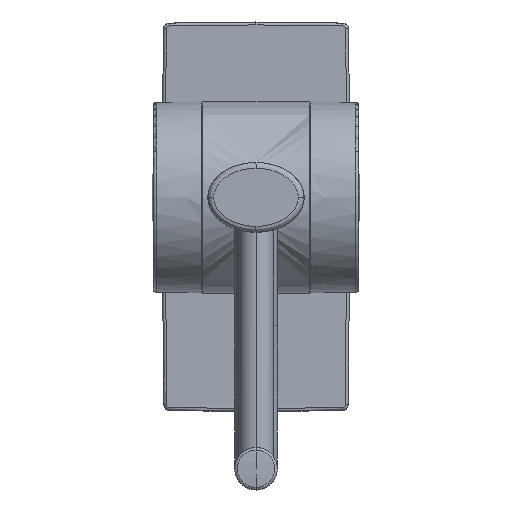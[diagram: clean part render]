
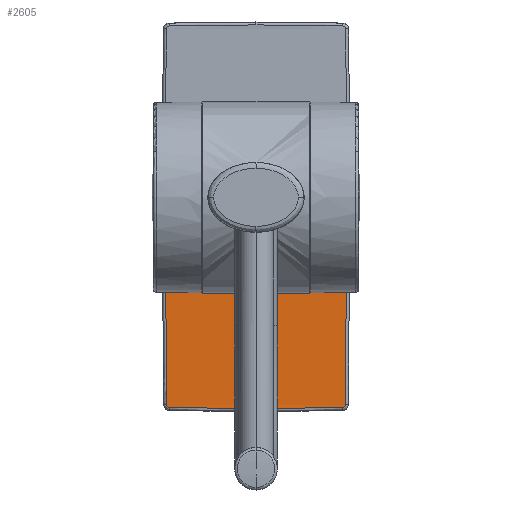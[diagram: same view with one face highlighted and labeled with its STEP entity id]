
A CAD part, front view. The second image highlights one B-rep face of the part: STEP entity #2605.
In plain terms, the highlighted cylindrical face has radius 7000 mm (diameter 14000 mm), a partial arc.
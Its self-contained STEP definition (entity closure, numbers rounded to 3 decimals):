
#37=CARTESIAN_POINT('',(0.,-14.5,
-109.));
#38=CARTESIAN_POINT('',(4.572,-14.5,-109.));
#39=CARTESIAN_POINT('',(13.965,-14.491,-108.964));
#40=CARTESIAN_POINT('',(28.289,-14.448,-108.799));
#41=CARTESIAN_POINT('',(39.012,-14.394,-108.586));
#42=CARTESIAN_POINT('',(44.582,-14.358,-108.448));
#44=CARTESIAN_POINT('',(0.,-14.5,
-109.));
#45=CARTESIAN_POINT('',(-4.572,-14.5,-109.));
#46=CARTESIAN_POINT('',(-13.965,-14.491,-108.964));
#47=CARTESIAN_POINT('',(-28.289,-14.448,-108.799));
#48=CARTESIAN_POINT('',(-39.012,-14.394,-108.586));
#49=CARTESIAN_POINT('',(-44.582,-14.358,-108.448));
#51=CARTESIAN_POINT('',(-44.582,-14.358,-108.448));
#52=CARTESIAN_POINT('',(-44.692,-14.357,-108.445));
#53=CARTESIAN_POINT('',(-44.907,-14.356,-108.416));
#54=CARTESIAN_POINT('',(-45.219,-14.354,-108.301));
#55=CARTESIAN_POINT('',(-45.497,-14.352,-108.122));
#56=CARTESIAN_POINT('',(-45.73,-14.351,-107.887));
#57=CARTESIAN_POINT('',(-45.906,-14.349,-107.607));
#58=CARTESIAN_POINT('',(-46.017,-14.349,-107.294));
#59=CARTESIAN_POINT('',(-46.043,-14.349,-107.079));
#60=CARTESIAN_POINT('',(-46.045,-14.349,-106.968));
#62=CARTESIAN_POINT('',(-46.045,-14.349,-106.968));
#63=CARTESIAN_POINT('',(-46.203,-14.348,-95.151));
#64=CARTESIAN_POINT('',(-46.466,-14.346,-71.516));
#65=CARTESIAN_POINT('',(-46.625,-14.345,-47.882));
#66=CARTESIAN_POINT('',(-46.679,-14.344,-36.064));
#68=CARTESIAN_POINT('',(-46.679,-14.344,-36.064));
#69=CARTESIAN_POINT('',(-43.209,-14.368,-36.129));
#70=CARTESIAN_POINT('',(-36.076,-14.41,-36.248));
#71=CARTESIAN_POINT('',(-24.861,-14.459,-36.385));
#72=CARTESIAN_POINT('',(-12.933,-14.492,-36.477));
#73=CARTESIAN_POINT('',(-4.402,-14.5,-36.5));
#74=CARTESIAN_POINT('',(0.,-14.5,
-36.5));
#76=CARTESIAN_POINT('',(46.679,-14.344,-36.064));
#77=CARTESIAN_POINT('',(43.209,-14.368,-36.129));
#78=CARTESIAN_POINT('',(36.076,-14.41,-36.248));
#79=CARTESIAN_POINT('',(24.861,-14.459,-36.385));
#80=CARTESIAN_POINT('',(12.933,-14.492,-36.477));
#81=CARTESIAN_POINT('',(4.402,-14.5,-36.5));
#82=CARTESIAN_POINT('',(0.,-14.5,
-36.5));
#84=CARTESIAN_POINT('',(46.045,-14.349,-106.968));
#85=CARTESIAN_POINT('',(46.203,-14.348,-95.151));
#86=CARTESIAN_POINT('',(46.466,-14.346,-71.516));
#87=CARTESIAN_POINT('',(46.625,-14.345,-47.882));
#88=CARTESIAN_POINT('',(46.679,-14.344,-36.064));
#90=CARTESIAN_POINT('',(44.582,-14.358,-108.448));
#91=CARTESIAN_POINT('',(44.692,-14.357,-108.445));
#92=CARTESIAN_POINT('',(44.907,-14.356,-108.416));
#93=CARTESIAN_POINT('',(45.219,-14.354,-108.301));
#94=CARTESIAN_POINT('',(45.497,-14.352,-108.122));
#95=CARTESIAN_POINT('',(45.73,-14.351,-107.887));
#96=CARTESIAN_POINT('',(45.906,-14.349,-107.607));
#97=CARTESIAN_POINT('',(46.017,-14.349,-107.294));
#98=CARTESIAN_POINT('',(46.043,-14.349,-107.079));
#99=CARTESIAN_POINT('',(46.045,-14.349,-106.968));
#2202=VERTEX_POINT('',#84);
#2203=VERTEX_POINT('',#88);
#2204=VERTEX_POINT('',#90);
#2314=VERTEX_POINT('',#62);
#2315=VERTEX_POINT('',#66);
#2316=VERTEX_POINT('',#51);
#2415=CARTESIAN_POINT('',(0.,-14.5,
-36.5));
#2417=VERTEX_POINT('',#2415);
#2418=CARTESIAN_POINT('',(0.,-14.5,
-109.));
#2420=VERTEX_POINT('',#2418);
#2582=CARTESIAN_POINT('',(0.,6985.5,-148.));
#2583=DIRECTION('',(0.,0.,1.));
#2584=DIRECTION('',(0.,1.,0.));
#2585=AXIS2_PLACEMENT_3D('',#2582,#2583,#2584);
#2586=CYLINDRICAL_SURFACE('',#2585,7000.);
#2588=ORIENTED_EDGE('',*,*,#2587,.F.);
#2590=ORIENTED_EDGE('',*,*,#2589,.T.);
#2592=ORIENTED_EDGE('',*,*,#2591,.T.);
#2594=ORIENTED_EDGE('',*,*,#2593,.T.);
#2596=ORIENTED_EDGE('',*,*,#2595,.T.);
#2598=ORIENTED_EDGE('',*,*,#2597,.F.);
#2600=ORIENTED_EDGE('',*,*,#2599,.F.);
#2602=ORIENTED_EDGE('',*,*,#2601,.F.);
#2603=EDGE_LOOP('',(#2588,#2590,#2592,#2594,#2596,#2598,#2600,#2602));
#2604=FACE_OUTER_BOUND('',#2603,.F.);
#2605=ADVANCED_FACE('',(#2604),#2586,.T.);
#43=B_SPLINE_CURVE_WITH_KNOTS('',3,(#37,#38,#39,#40,#41,#42),.UNSPECIFIED.,.F.,
.F.,(4,1,1,4),(0.,0.333,0.667,1.),.UNSPECIFIED.);
#50=B_SPLINE_CURVE_WITH_KNOTS('',3,(#44,#45,#46,#47,#48,#49),.UNSPECIFIED.,.F.,
.F.,(4,1,1,4),(0.,0.333,0.667,1.),.UNSPECIFIED.);
#61=B_SPLINE_CURVE_WITH_KNOTS('',3,(#51,#52,#53,#54,#55,#56,#57,#58,#59,#60),
.UNSPECIFIED.,.F.,.F.,(4,1,1,1,1,1,1,4),(0.,0.143,
0.286,0.429,0.571,0.714,
0.857,1.),.UNSPECIFIED.);
#67=B_SPLINE_CURVE_WITH_KNOTS('',3,(#62,#63,#64,#65,#66),.UNSPECIFIED.,.F.,.F.,(
4,1,4),(0.,0.5,1.),.UNSPECIFIED.);
#75=B_SPLINE_CURVE_WITH_KNOTS('',3,(#68,#69,#70,#71,#72,#73,#74),.UNSPECIFIED.,
.F.,.F.,(4,1,1,1,4),(0.,0.25,0.5,0.75,1.),.UNSPECIFIED.);
#83=B_SPLINE_CURVE_WITH_KNOTS('',3,(#76,#77,#78,#79,#80,#81,#82),.UNSPECIFIED.,
.F.,.F.,(4,1,1,1,4),(0.,0.25,0.5,0.75,1.),.UNSPECIFIED.);
#89=B_SPLINE_CURVE_WITH_KNOTS('',3,(#84,#85,#86,#87,#88),.UNSPECIFIED.,.F.,.F.,(
4,1,4),(0.,0.5,1.),.UNSPECIFIED.);
#100=B_SPLINE_CURVE_WITH_KNOTS('',3,(#90,#91,#92,#93,#94,#95,#96,#97,#98,#99),
.UNSPECIFIED.,.F.,.F.,(4,1,1,1,1,1,1,4),(0.,0.143,
0.286,0.429,0.571,0.714,
0.857,1.),.UNSPECIFIED.);
#2587=EDGE_CURVE('',#2420,#2204,#43,.T.);
#2589=EDGE_CURVE('',#2420,#2316,#50,.T.);
#2591=EDGE_CURVE('',#2316,#2314,#61,.T.);
#2593=EDGE_CURVE('',#2314,#2315,#67,.T.);
#2595=EDGE_CURVE('',#2315,#2417,#75,.T.);
#2597=EDGE_CURVE('',#2203,#2417,#83,.T.);
#2599=EDGE_CURVE('',#2202,#2203,#89,.T.);
#2601=EDGE_CURVE('',#2204,#2202,#100,.T.);
